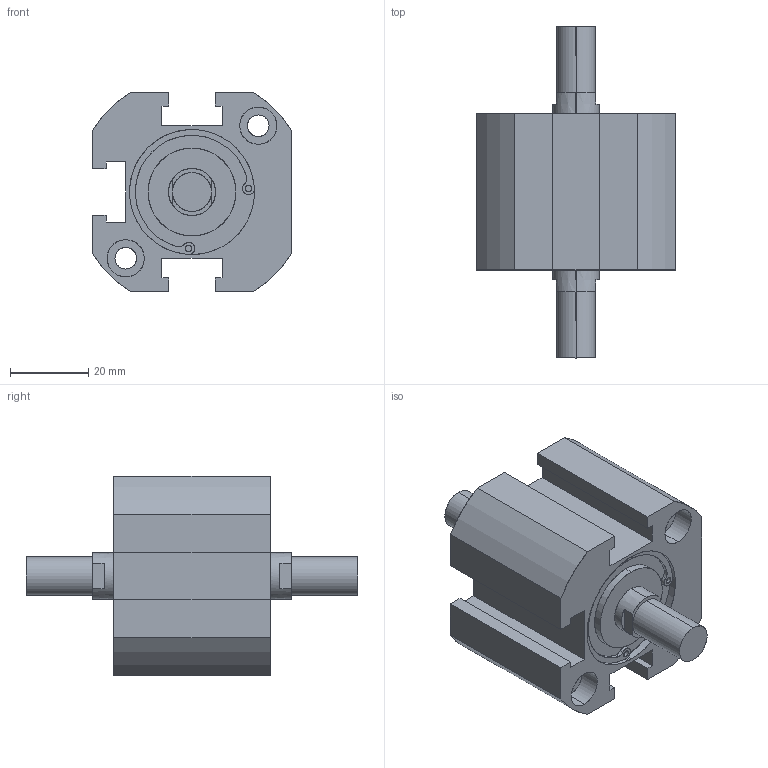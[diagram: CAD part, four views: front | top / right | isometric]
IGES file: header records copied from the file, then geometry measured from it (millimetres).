
Start section: SolidWorks IGES file using analytic representation for surfaces
Global section: file name: C:\Users\Toshiba\Desktop\XG#M7-32-10.IGS; native system: SolidWorks 2014; preprocessor: SolidWorks 2014; author: Toshiba; date: 160524.102322; units: millimetre
Bounding box: 51 x 85 x 51 mm (x, y, z)
Surface area: 18718.8 mm2 (no closed solid volume)
Topology: 0 solids, 0 shells, 133 faces, 2176 edges, 2172 vertices
Faces by surface type: revolution 73, bspline 60
